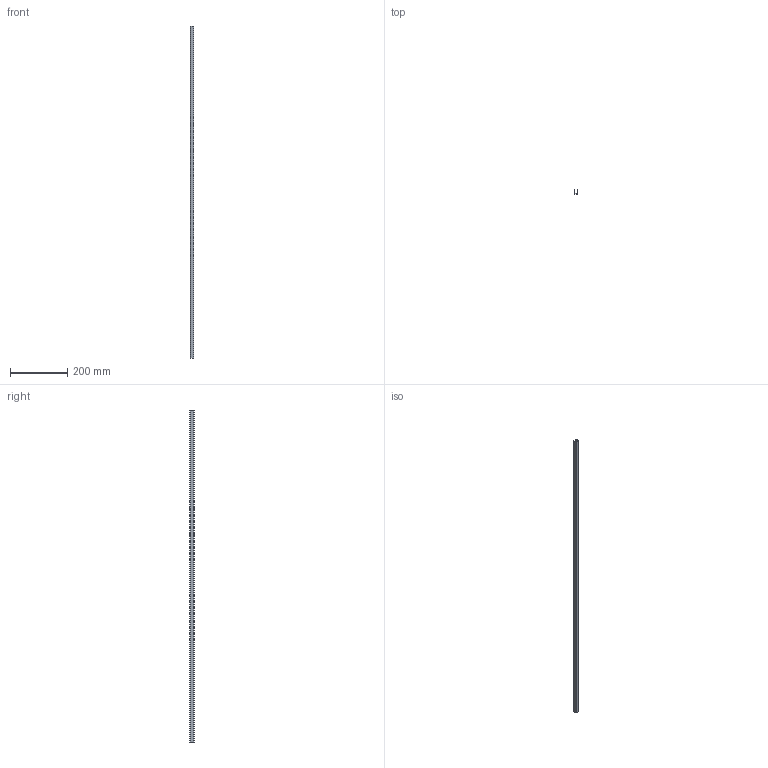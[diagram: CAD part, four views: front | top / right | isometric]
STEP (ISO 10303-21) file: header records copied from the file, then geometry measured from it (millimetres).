
FILE_DESCRIPTION (( 'STEP AP203' ), '1' );
FILE_NAME ('GlasLine_24.STEP', '2024-12-02T08:21:14', ( '' ), ( '' ), 'SwSTEP 2.0', 'SolidWorks 2023', '' );
FILE_SCHEMA (( 'CONFIG_CONTROL_DESIGN' ));
Length unit declared in the file: millimetre
Products named in the file (1): GlasLine_24
Bounding box: 11.2 x 14 x 1160 mm (x, y, z)
Volume: 57559.2 mm3; surface area: 86070.8 mm2
Topology: 1 solids, 1 shells, 18 faces, 48 edges, 32 vertices
Faces by surface type: plane 14, cylinder 4
Entity records: 637 total; most frequent: CARTESIAN_POINT 99, ORIENTED_EDGE 96, DIRECTION 94, EDGE_CURVE 48, LINE 40, VECTOR 40, VERTEX_POINT 32, AXIS2_PLACEMENT_3D 27
